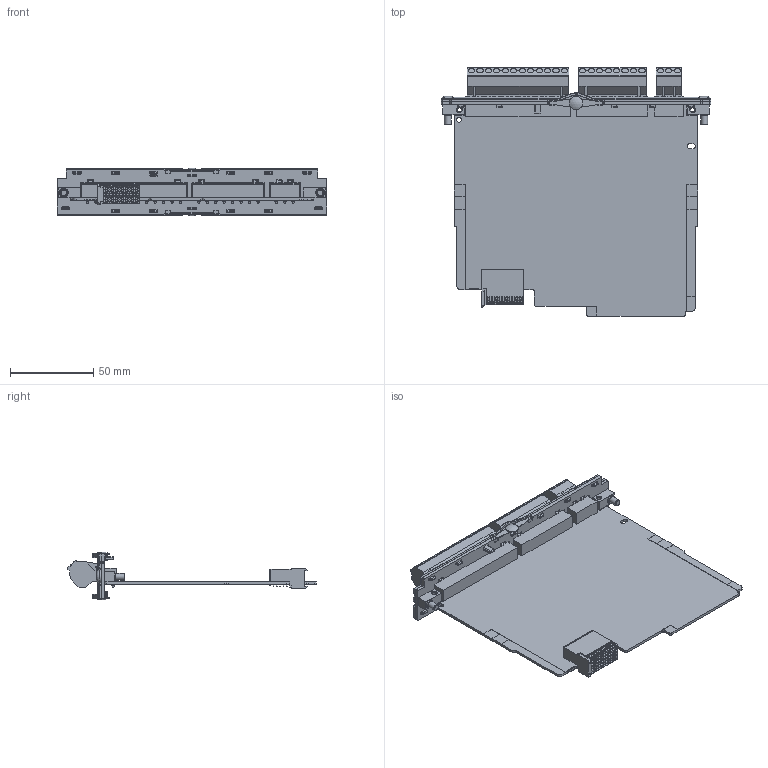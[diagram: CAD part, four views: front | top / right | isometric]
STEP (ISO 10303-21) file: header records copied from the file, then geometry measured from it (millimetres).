
FILE_DESCRIPTION(/* description */ (''),/* implementation_level */ '2;1');
FILE_NAME(/* name */ 'EIM3.1_3D CAD_20250228.stp',/* time_stamp */ '2025-02-28T13:20:50+01:00',/* author */ ('DSP'),/* organization */ (''),/* preprocessor_version */ 'ST-DEVELOPER v19.2',/* originating_system */ 'Autodesk Inventor 2023',/* authorisation */ '');
FILE_SCHEMA (('AUTOMOTIVE_DESIGN { 1 0 10303 214 3 1 1 }'));
Products named in the file (1): EIM3.1_3D CAD_SMPL_20250228
Bounding box: 162 x 149.2 x 28.71 mm (x, y, z)
Volume: 82328.7 mm3; surface area: 63760.9 mm2
Topology: 1 solids, 1 shells, 3020 faces, 7648 edges, 4739 vertices
Faces by surface type: plane 1896, cylinder 703, cone 157, bspline 156, torus 104, sphere 4
Full cylindrical faces by diameter (mm): 0.8 x8, 1.6 x23, 2.459 x2, 2.5 x2, 3 x2, 3.05 x1, 3.242 x2, 4 x25, 4.4 x2, 5.5 x2, 8 x2
Entity records: 100481 total; most frequent: CARTESIAN_POINT 25077, ORIENTED_EDGE 15144, DIRECTION 14633, EDGE_CURVE 7572, LINE 5415, VECTOR 5415, VERTEX_POINT 4739, AXIS2_PLACEMENT_3D 4609
